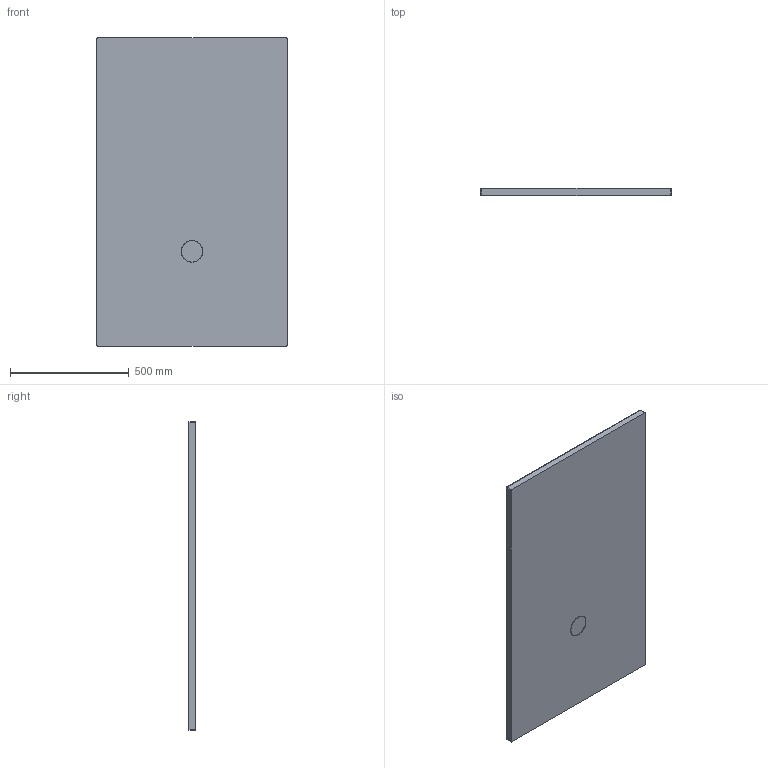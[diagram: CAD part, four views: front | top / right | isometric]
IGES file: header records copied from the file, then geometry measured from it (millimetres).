
Start section: SolidWorks IGES file using analytic representation for surfaces
Global section: file name: D:\Users\M.Szymanski\Desktop\Brodziki\Nias\B_M_NIAS_130x80x1,5.IGS; native system: SolidWorks 2011; preprocessor: SolidWorks 2011; author: M.Szymanski; date: 180222.142111; units: millimetre
Bounding box: 800 x 30 x 1300 mm (x, y, z)
Surface area: 2225239.5 mm2 (no closed solid volume)
Topology: 0 solids, 0 shells, 45 faces, 666 edges, 665 vertices
Faces by surface type: bspline 25, revolution 20
